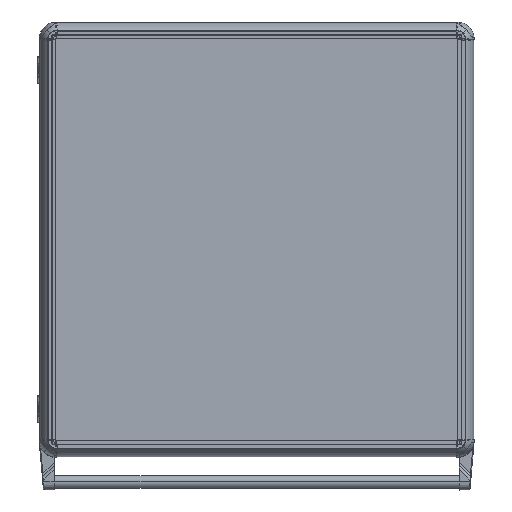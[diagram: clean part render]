
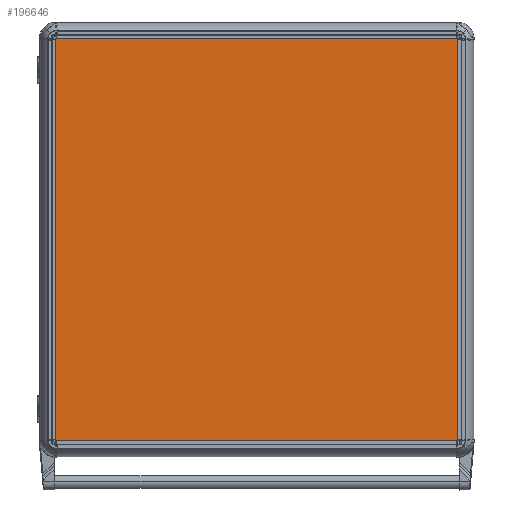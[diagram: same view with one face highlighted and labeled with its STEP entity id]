
A CAD part, top view. The second image highlights one B-rep face of the part: STEP entity #196646.
In plain terms, the highlighted planar face has unit normal (0, 0, 1).
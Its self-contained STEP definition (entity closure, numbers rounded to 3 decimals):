
#2714 = CARTESIAN_POINT ( 'NONE',  ( -300., 300., 2. ) ) ;
#17785 = EDGE_LOOP ( 'NONE', ( #153244, #242539, #143246, #206458 ) ) ;
#31441 = VERTEX_POINT ( 'NONE', #257514 ) ;
#40790 = LINE ( 'NONE', #2714, #140163 ) ;
#55644 = DIRECTION ( 'NONE',  ( 0., 1., 0. ) ) ;
#55686 = DIRECTION ( 'NONE',  ( 0., 0., 1. ) ) ;
#56668 = VECTOR ( 'NONE', #55644, 1000. ) ;
#57529 = CARTESIAN_POINT ( 'NONE',  ( -300., -300., 2. ) ) ;
#58394 = AXIS2_PLACEMENT_3D ( 'NONE', #159037, #55686, #221342 ) ;
#68522 = EDGE_CURVE ( 'NONE', #105608, #220465, #40790, .T. ) ;
#84368 = VECTOR ( 'NONE', #185127, 1000. ) ;
#93409 = VERTEX_POINT ( 'NONE', #153110 ) ;
#103711 = CARTESIAN_POINT ( 'NONE',  ( -300., 300., 2. ) ) ;
#105608 = VERTEX_POINT ( 'NONE', #162634 ) ;
#137284 = FACE_OUTER_BOUND ( 'NONE', #17785, .T. ) ;
#140106 = EDGE_CURVE ( 'NONE', #220465, #31441, #225775, .T. ) ;
#140163 = VECTOR ( 'NONE', #251103, 1000. ) ;
#143246 = ORIENTED_EDGE ( 'NONE', *, *, #68522, .T. ) ;
#153110 = CARTESIAN_POINT ( 'NONE',  ( 300., 300., 2. ) ) ;
#153244 = ORIENTED_EDGE ( 'NONE', *, *, #166102, .T. ) ;
#154144 = VECTOR ( 'NONE', #186479, 1000. ) ;
#154506 = EDGE_CURVE ( 'NONE', #93409, #105608, #224410, .T. ) ;
#159037 = CARTESIAN_POINT ( 'NONE',  ( 0., 0., 2. ) ) ;
#162634 = CARTESIAN_POINT ( 'NONE',  ( -300., 300., 2. ) ) ;
#166102 = EDGE_CURVE ( 'NONE', #31441, #93409, #202352, .T. ) ;
#185127 = DIRECTION ( 'NONE',  ( -1., 0., 0. ) ) ;
#186479 = DIRECTION ( 'NONE',  ( 1., 0., 0. ) ) ;
#196646 = ADVANCED_FACE ( 'NONE', ( #137284 ), #236385, .T. ) ;
#202352 = LINE ( 'NONE', #240365, #56668 ) ;
#206458 = ORIENTED_EDGE ( 'NONE', *, *, #140106, .T. ) ;
#220465 = VERTEX_POINT ( 'NONE', #246140 ) ;
#221342 = DIRECTION ( 'NONE',  ( 1., 0., 0. ) ) ;
#224410 = LINE ( 'NONE', #103711, #84368 ) ;
#225775 = LINE ( 'NONE', #57529, #154144 ) ;
#236385 = PLANE ( 'NONE',  #58394 ) ;
#240365 = CARTESIAN_POINT ( 'NONE',  ( 300., 300., 2. ) ) ;
#242539 = ORIENTED_EDGE ( 'NONE', *, *, #154506, .T. ) ;
#246140 = CARTESIAN_POINT ( 'NONE',  ( -300., -300., 2. ) ) ;
#251103 = DIRECTION ( 'NONE',  ( 0., -1., 0. ) ) ;
#257514 = CARTESIAN_POINT ( 'NONE',  ( 300., -300., 2. ) ) ;
